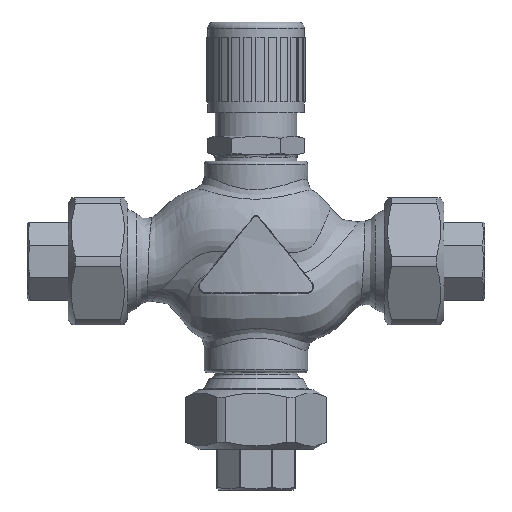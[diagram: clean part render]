
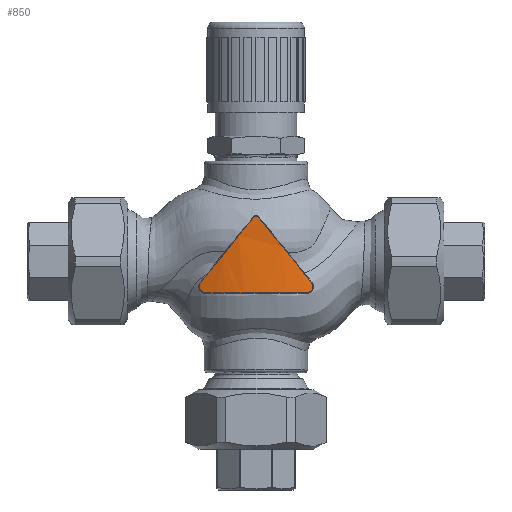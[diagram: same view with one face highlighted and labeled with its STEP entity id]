
A CAD part, front view. The second image highlights one B-rep face of the part: STEP entity #850.
In plain terms, the highlighted cylindrical face has radius 50 mm (diameter 100 mm), a partial arc.
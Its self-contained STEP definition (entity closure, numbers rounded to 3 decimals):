
#110=ELLIPSE('',#5810,79.162,50.);
#111=ELLIPSE('',#5812,79.162,50.);
#255=B_SPLINE_CURVE_WITH_KNOTS('',3,(#13644,#13645,#13646,#13647,#13648,
#13649,#13650,#13651,#13652,#13653,#13654,#13655,#13656,#13657,#13658,#13659,
#13660,#13661,#13662,#13663,#13664,#13665),.UNSPECIFIED.,.F.,.F.,(4,3,3,
3,3,3,3,4),(0.,0.163,0.325,0.484,0.634,
0.774,0.91,1.),.UNSPECIFIED.);
#257=B_SPLINE_CURVE_WITH_KNOTS('',3,(#13695,#13696,#13697,#13698,#13699,
#13700,#13701,#13702,#13703,#13704,#13705,#13706,#13707,#13708,#13709,#13710,
#13711,#13712,#13713,#13714,#13715,#13716),.UNSPECIFIED.,.F.,.F.,(4,3,3,
3,3,3,3,4),(0.,0.142,0.285,0.422,0.559,
0.701,0.852,1.),.UNSPECIFIED.);
#259=B_SPLINE_CURVE_WITH_KNOTS('',3,(#13743,#13744,#13745,#13746,#13747,
#13748,#13749,#13750,#13751,#13752,#13753,#13754,#13755,#13756,#13757,#13758,
#13759,#13760,#13761),.UNSPECIFIED.,.F.,.F.,(4,3,3,3,3,3,4),(0.,0.19,
0.38,0.571,0.761,0.951,
1.),.UNSPECIFIED.);
#850=ADVANCED_FACE('',(#1253),#1188,.T.);
#1188=CYLINDRICAL_SURFACE('',#5815,50.);
#1253=FACE_OUTER_BOUND('',#1554,.T.);
#1554=EDGE_LOOP('',(#2470,#2471,#2472,#2473,#2474,#2475,#2476,#2477));
#2010=CIRCLE('',#5783,50.);
#2021=CIRCLE('',#5805,50.);
#2022=CIRCLE('',#5814,50.);
#2470=ORIENTED_EDGE('',*,*,#4440,.F.);
#2471=ORIENTED_EDGE('',*,*,#4445,.T.);
#2472=ORIENTED_EDGE('',*,*,#4455,.F.);
#2473=ORIENTED_EDGE('',*,*,#4452,.T.);
#2474=ORIENTED_EDGE('',*,*,#4460,.F.);
#2475=ORIENTED_EDGE('',*,*,#4448,.T.);
#2476=ORIENTED_EDGE('',*,*,#4405,.F.);
#2477=ORIENTED_EDGE('',*,*,#4461,.F.);
#3857=VERTEX_POINT('',#8191);
#3859=VERTEX_POINT('',#8197);
#3892=VERTEX_POINT('',#13608);
#3893=VERTEX_POINT('',#13609);
#3896=VERTEX_POINT('',#13643);
#3898=VERTEX_POINT('',#13669);
#3900=VERTEX_POINT('',#13720);
#3902=VERTEX_POINT('',#13742);
#4405=EDGE_CURVE('',#3859,#3857,#2010,.T.);
#4440=EDGE_CURVE('',#3892,#3893,#2021,.T.);
#4445=EDGE_CURVE('',#3892,#3896,#255,.T.);
#4448=EDGE_CURVE('',#3898,#3857,#257,.T.);
#4452=EDGE_CURVE('',#3900,#3902,#259,.T.);
#4455=EDGE_CURVE('',#3900,#3896,#110,.T.);
#4460=EDGE_CURVE('',#3898,#3902,#111,.T.);
#4461=EDGE_CURVE('',#3893,#3859,#2022,.T.);
#5783=AXIS2_PLACEMENT_3D('',#8198,#6496,#6497);
#5805=AXIS2_PLACEMENT_3D('',#13607,#6540,#6541);
#5810=AXIS2_PLACEMENT_3D('',#13777,#6555,#6556);
#5812=AXIS2_PLACEMENT_3D('',#13801,#6559,#6560);
#5814=AXIS2_PLACEMENT_3D('',#13803,#6563,#6564);
#5815=AXIS2_PLACEMENT_3D('',#13804,#6565,#6566);
#6496=DIRECTION('',(0.,0.,-1.));
#6497=DIRECTION('',(1.,0.,0.));
#6540=DIRECTION('',(0.,0.,-1.));
#6541=DIRECTION('',(1.,0.,0.));
#6555=DIRECTION('',(0.775,0.,0.632));
#6556=DIRECTION('',(-0.632,0.,0.775));
#6559=DIRECTION('',(-0.775,0.,0.632));
#6560=DIRECTION('',(0.632,0.,0.775));
#6563=DIRECTION('',(0.,0.,-1.));
#6564=DIRECTION('',(1.,0.,0.));
#6565=DIRECTION('',(0.,0.,1.));
#6566=DIRECTION('',(0.,-1.,0.));
#8191=CARTESIAN_POINT('',(83.842,-21.217,90.));
#8197=CARTESIAN_POINT('',(93.408,-23.463,90.));
#8198=CARTESIAN_POINT('',(100.,26.1,90.));
#13607=CARTESIAN_POINT('',(100.,26.1,90.));
#13608=CARTESIAN_POINT('',(116.158,-21.217,90.));
#13609=CARTESIAN_POINT('',(96.727,-23.793,90.));
#13643=CARTESIAN_POINT('',(117.709,-20.659,93.263));
#13644=CARTESIAN_POINT('',(116.158,-21.217,90.));
#13645=CARTESIAN_POINT('',(116.394,-21.137,90.));
#13646=CARTESIAN_POINT('',(116.632,-21.053,90.043));
#13647=CARTESIAN_POINT('',(116.854,-20.974,90.125));
#13648=CARTESIAN_POINT('',(117.075,-20.895,90.207));
#13649=CARTESIAN_POINT('',(117.286,-20.817,90.331));
#13650=CARTESIAN_POINT('',(117.467,-20.75,90.488));
#13651=CARTESIAN_POINT('',(117.645,-20.684,90.641));
#13652=CARTESIAN_POINT('',(117.799,-20.625,90.831));
#13653=CARTESIAN_POINT('',(117.914,-20.581,91.041));
#13654=CARTESIAN_POINT('',(118.021,-20.539,91.239));
#13655=CARTESIAN_POINT('',(118.098,-20.51,91.461));
#13656=CARTESIAN_POINT('',(118.134,-20.496,91.686));
#13657=CARTESIAN_POINT('',(118.167,-20.483,91.898));
#13658=CARTESIAN_POINT('',(118.166,-20.483,92.119));
#13659=CARTESIAN_POINT('',(118.131,-20.497,92.33));
#13660=CARTESIAN_POINT('',(118.096,-20.51,92.536));
#13661=CARTESIAN_POINT('',(118.029,-20.537,92.738));
#13662=CARTESIAN_POINT('',(117.934,-20.573,92.92));
#13663=CARTESIAN_POINT('',(117.871,-20.597,93.042));
#13664=CARTESIAN_POINT('',(117.795,-20.626,93.158));
#13665=CARTESIAN_POINT('',(117.709,-20.659,93.263));
#13669=CARTESIAN_POINT('',(82.291,-20.659,93.263));
#13695=CARTESIAN_POINT('',(82.291,-20.659,93.263));
#13696=CARTESIAN_POINT('',(82.157,-20.608,93.099));
#13697=CARTESIAN_POINT('',(82.047,-20.566,92.909));
#13698=CARTESIAN_POINT('',(81.971,-20.536,92.706));
#13699=CARTESIAN_POINT('',(81.894,-20.507,92.504));
#13700=CARTESIAN_POINT('',(81.85,-20.489,92.284));
#13701=CARTESIAN_POINT('',(81.843,-20.487,92.066));
#13702=CARTESIAN_POINT('',(81.836,-20.484,91.855));
#13703=CARTESIAN_POINT('',(81.863,-20.495,91.64));
#13704=CARTESIAN_POINT('',(81.922,-20.518,91.438));
#13705=CARTESIAN_POINT('',(81.981,-20.54,91.238));
#13706=CARTESIAN_POINT('',(82.072,-20.575,91.047));
#13707=CARTESIAN_POINT('',(82.187,-20.619,90.877));
#13708=CARTESIAN_POINT('',(82.306,-20.665,90.701));
#13709=CARTESIAN_POINT('',(82.455,-20.721,90.544));
#13710=CARTESIAN_POINT('',(82.62,-20.782,90.416));
#13711=CARTESIAN_POINT('',(82.796,-20.847,90.281));
#13712=CARTESIAN_POINT('',(82.996,-20.92,90.175));
#13713=CARTESIAN_POINT('',(83.204,-20.994,90.105));
#13714=CARTESIAN_POINT('',(83.408,-21.067,90.036));
#13715=CARTESIAN_POINT('',(83.626,-21.143,90.));
#13716=CARTESIAN_POINT('',(83.842,-21.217,90.));
#13720=CARTESIAN_POINT('',(100.775,-23.894,114.048));
#13742=CARTESIAN_POINT('',(99.225,-23.894,114.048));
#13743=CARTESIAN_POINT('',(100.775,-23.894,114.048));
#13744=CARTESIAN_POINT('',(100.705,-23.895,114.135));
#13745=CARTESIAN_POINT('',(100.618,-23.896,114.211));
#13746=CARTESIAN_POINT('',(100.523,-23.897,114.269));
#13747=CARTESIAN_POINT('',(100.427,-23.898,114.328));
#13748=CARTESIAN_POINT('',(100.32,-23.899,114.371));
#13749=CARTESIAN_POINT('',(100.211,-23.9,114.394));
#13750=CARTESIAN_POINT('',(100.101,-23.9,114.418));
#13751=CARTESIAN_POINT('',(99.986,-23.9,114.423));
#13752=CARTESIAN_POINT('',(99.875,-23.9,114.409));
#13753=CARTESIAN_POINT('',(99.764,-23.9,114.395));
#13754=CARTESIAN_POINT('',(99.654,-23.899,114.362));
#13755=CARTESIAN_POINT('',(99.554,-23.898,114.312));
#13756=CARTESIAN_POINT('',(99.454,-23.897,114.262));
#13757=CARTESIAN_POINT('',(99.361,-23.896,114.194));
#13758=CARTESIAN_POINT('',(99.283,-23.895,114.114));
#13759=CARTESIAN_POINT('',(99.263,-23.895,114.093));
#13760=CARTESIAN_POINT('',(99.243,-23.894,114.071));
#13761=CARTESIAN_POINT('',(99.225,-23.894,114.048));
#13777=CARTESIAN_POINT('',(100.,26.1,115.));
#13801=CARTESIAN_POINT('',(100.,26.1,115.));
#13803=CARTESIAN_POINT('',(100.,26.1,90.));
#13804=CARTESIAN_POINT('',(100.,26.1,50.));
